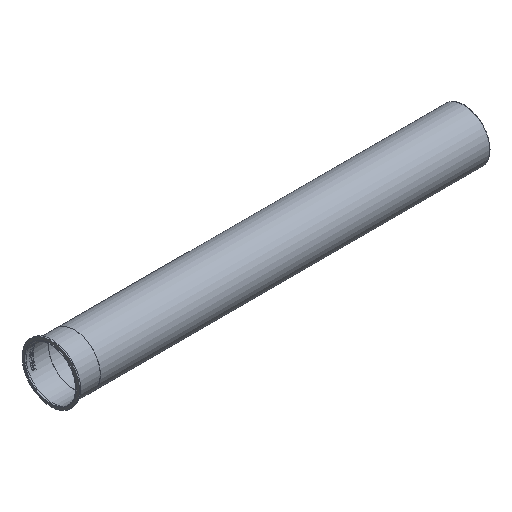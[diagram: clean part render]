
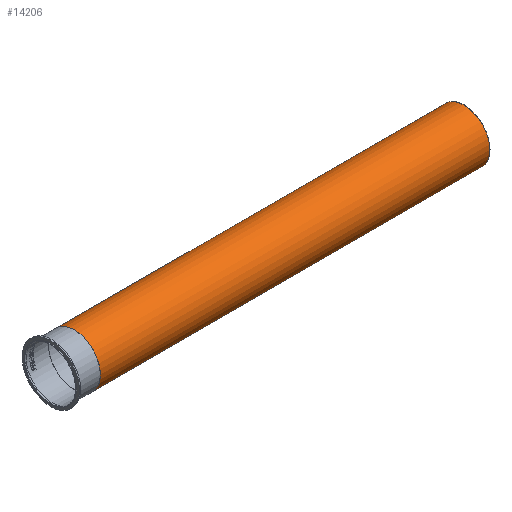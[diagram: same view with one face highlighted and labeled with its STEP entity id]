
A CAD part, isometric view. The second image highlights one B-rep face of the part: STEP entity #14206.
In plain terms, the highlighted cylindrical face has radius 124.968 mm (diameter 249.936 mm), a full revolution.
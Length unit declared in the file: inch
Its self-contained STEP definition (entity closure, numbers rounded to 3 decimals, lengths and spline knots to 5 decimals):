
#14175=CARTESIAN_POINT('',(4.63,4.92,0.0));
#14176=VERTEX_POINT('',#14175);
#14177=CARTESIAN_POINT('',(4.63,0.0,0.0));
#14178=DIRECTION('',(1.0,0.0,0.0));
#14179=DIRECTION('',(0.0,1.0,0.0));
#14180=AXIS2_PLACEMENT_3D('',#14177,#14178,#14179);
#14181=CIRCLE('',#14180,4.92);
#14182=EDGE_CURVE('',#14176,#14176,#14181,.T.);
#14187=CARTESIAN_POINT('',(41.68508,0.0,0.0));
#14188=DIRECTION('',(1.0,0.0,0.0));
#14189=DIRECTION('',(0.0,1.0,0.0));
#14190=AXIS2_PLACEMENT_3D('',#14187,#14188,#14189);
#14191=CYLINDRICAL_SURFACE('',#14190,4.92);
#14192=CARTESIAN_POINT('',(78.74016,4.92,0.0));
#14193=VERTEX_POINT('',#14192);
#14194=CARTESIAN_POINT('',(78.74016,0.0,0.0));
#14195=DIRECTION('',(1.0,0.0,0.0));
#14196=DIRECTION('',(0.0,1.0,0.0));
#14197=AXIS2_PLACEMENT_3D('',#14194,#14195,#14196);
#14198=CIRCLE('',#14197,4.92);
#14199=EDGE_CURVE('',#14193,#14193,#14198,.T.);
#14200=ORIENTED_EDGE('',*,*,#14199,.F.);
#14201=EDGE_LOOP('',(#14200));
#14202=FACE_OUTER_BOUND('',#14201,.T.);
#14203=ORIENTED_EDGE('',*,*,#14182,.T.);
#14204=EDGE_LOOP('',(#14203));
#14205=FACE_BOUND('',#14204,.T.);
#14206=ADVANCED_FACE('',(#14202,#14205),#14191,.T.);
